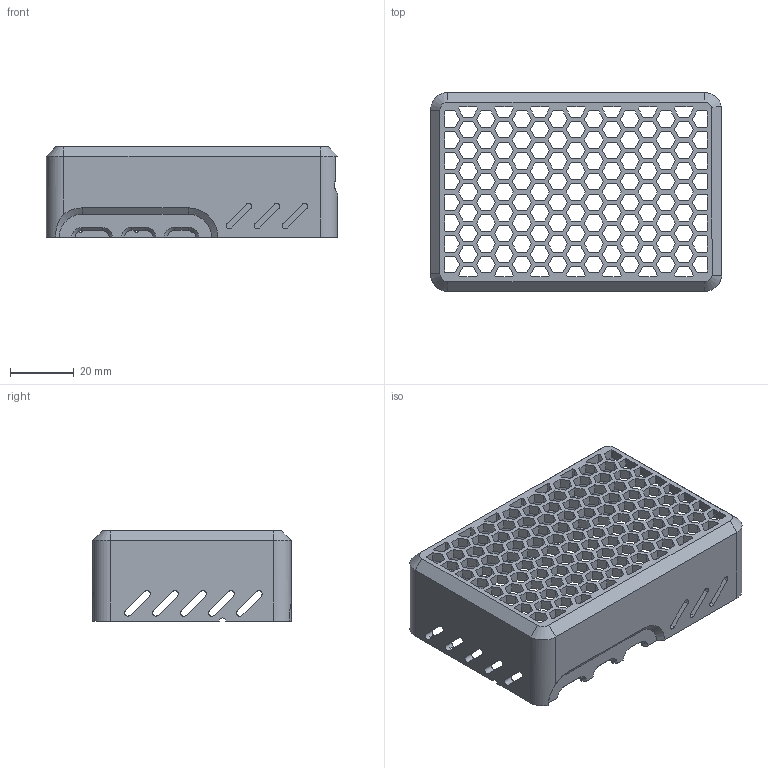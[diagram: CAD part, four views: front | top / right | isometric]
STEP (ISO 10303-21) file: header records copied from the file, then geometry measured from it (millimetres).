
FILE_DESCRIPTION(/* description */ (''),/* implementation_level */ '2;1');
FILE_NAME(/* name */ 'top.step',/* time_stamp */ '2024-12-01T04:38:56+07:00',/* author */ (''),/* organization */ (''),/* preprocessor_version */ 'ST-DEVELOPER v20',/* originating_system */ 'Autodesk Translation Framework v12.20.1.177',/* authorisation */ '');
FILE_SCHEMA (('AUTOMOTIVE_DESIGN { 1 0 10303 214 3 1 1 }'));
Length unit declared in the file: millimetre
Products named in the file (1): top minimal
Bounding box: 91.16 x 62.2 x 28.28 mm (x, y, z)
Volume: 22543.7 mm3; surface area: 25305.7 mm2
Topology: 1 solids, 1 shells, 932 faces, 2778 edges, 1845 vertices
Faces by surface type: plane 882, cylinder 38, cone 12
Entity records: 31315 total; most frequent: CARTESIAN_POINT 5606, ORIENTED_EDGE 5556, DIRECTION 4738, EDGE_CURVE 2778, LINE 2664, VECTOR 2664, VERTEX_POINT 1845, EDGE_LOOP 1209
